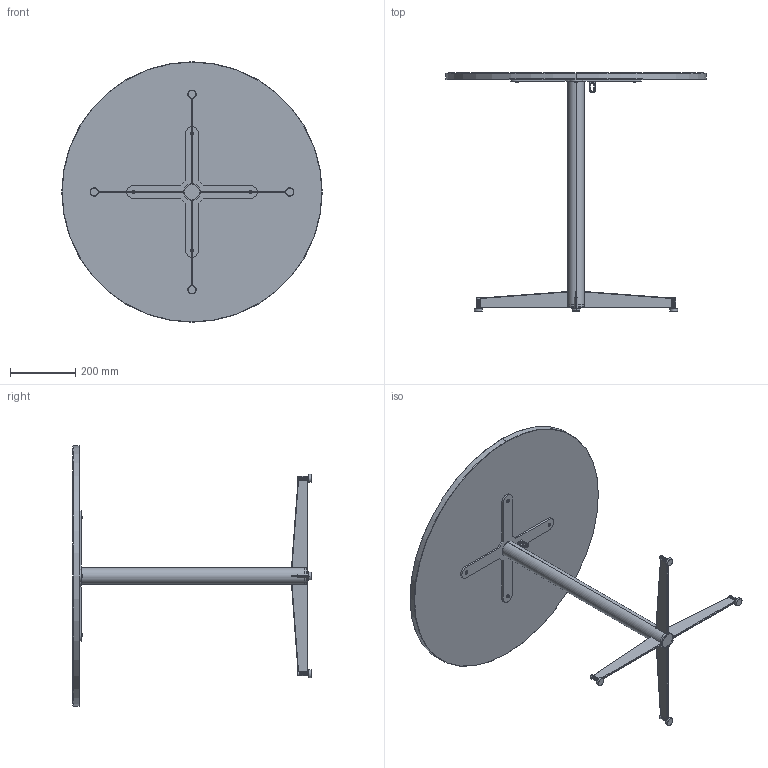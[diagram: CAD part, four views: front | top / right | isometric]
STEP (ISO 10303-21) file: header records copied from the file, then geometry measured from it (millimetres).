
FILE_DESCRIPTION (( 'STEP AP214' ), '1' );
FILE_NAME ('Nook Dining Table Ø80 marble wood.STEP', '2025-07-30T07:57:16', ( '' ), ( '' ), 'SwSTEP 2.0', 'SolidWorks 2024', '' );
FILE_SCHEMA (( 'AUTOMOTIVE_DESIGN' ));
Length unit declared in the file: millimetre
Products named in the file (10): 085A106_R01 Nook Dining Table X Plate Assembly Steel; 085A201_R01 Nook Dining Table X Plate Steel; 085A214_R01 Nook Table inner thread stud; socket button head screw_iso_ISO 7380 - M6 x 12 - 12N; Nook Dining Table Ø80 marble wood; SF257M627S-Ackurat; 085A205_R01 Nook Dining Table Leg Joint Steel; 085A207_R01 Nook Tabletop Ø80; 085A206_R01 Nook Dining Table Wire Attachment; 085A206_R01 Nook Table Leg 6mm Steel test
Assembly tree (21 placements, depth 3):
  Nook Dining Table Ø80 marble wood
    085A205_R01 Nook Dining Table Leg Joint Steel
    085A206_R01 Nook Table Leg 6mm Steel test  x4
    085A214_R01 Nook Table inner thread stud  x4
    085A106_R01 Nook Dining Table X Plate Assembly Steel
      085A201_R01 Nook Dining Table X Plate Steel
      085A206_R01 Nook Dining Table Wire Attachment
    SF257M627S-Ackurat  x4
    085A207_R01 Nook Tabletop Ø80
    socket button head screw_iso_ISO 7380 - M6 x 12 - 12N  x4
Bounding box: 800 x 731 x 800 mm (x, y, z)
Volume: 10688775.6 mm3; surface area: 1456708 mm2
Topology: 20 solids, 20 shells, 574 faces, 1456 edges, 936 vertices
Faces by surface type: cylinder 342, plane 144, cone 36, torus 32, bspline 12, sphere 8
Entity records: 11175 total; most frequent: CARTESIAN_POINT 5943, ORIENTED_EDGE 1054, DIRECTION 1040, EDGE_CURVE 527, AXIS2_PLACEMENT_3D 406, VERTEX_POINT 339, EDGE_LOOP 234, LINE 228
